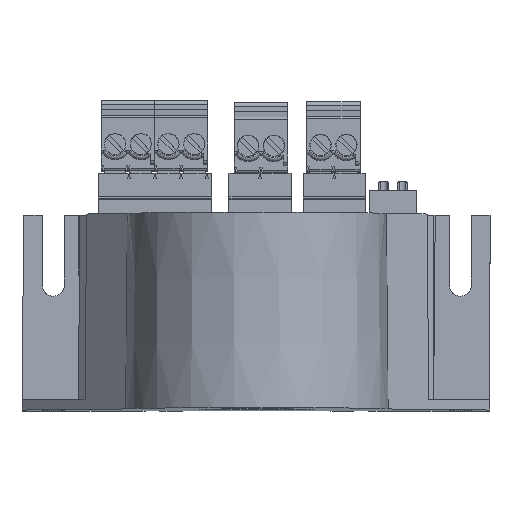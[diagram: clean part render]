
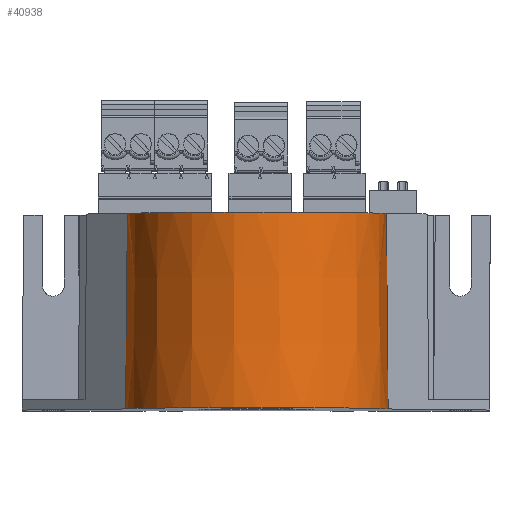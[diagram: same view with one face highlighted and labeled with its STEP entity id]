
A CAD part, top view. The second image highlights one B-rep face of the part: STEP entity #40938.
In plain terms, the highlighted conical face has half-angle 0.5 degrees and reference radius 17.5 mm.
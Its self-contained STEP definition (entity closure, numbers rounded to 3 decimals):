
#1428=CIRCLE('',#43354,17.73);
#1429=CIRCLE('',#43356,17.5);
#2633=B_SPLINE_CURVE_WITH_KNOTS('',3,(#58908,#58909,#58910,#58911),
 .UNSPECIFIED.,.F.,.F.,(4,4),(0.,0.026),.UNSPECIFIED.);
#2634=B_SPLINE_CURVE_WITH_KNOTS('',3,(#59184,#59185,#59186,#59187),
 .UNSPECIFIED.,.F.,.F.,(4,4),(0.,0.026),.UNSPECIFIED.);
#2857=CONICAL_SURFACE('',#43372,17.5,0.5);
#3011=FACE_OUTER_BOUND('',#5399,.T.);
#5399=EDGE_LOOP('',(#27643,#27644,#27645,#27646));
#17198=VERTEX_POINT('',#58905);
#17199=VERTEX_POINT('',#58907);
#17243=VERTEX_POINT('',#59042);
#17252=VERTEX_POINT('',#59063);
#21211=EDGE_CURVE('',#17199,#17198,#2633,.T.);
#21278=EDGE_CURVE('',#17243,#17198,#1428,.T.);
#21288=EDGE_CURVE('',#17252,#17199,#1429,.T.);
#21350=EDGE_CURVE('',#17252,#17243,#2634,.T.);
#27643=ORIENTED_EDGE('',*,*,#21278,.F.);
#27644=ORIENTED_EDGE('',*,*,#21350,.F.);
#27645=ORIENTED_EDGE('',*,*,#21288,.T.);
#27646=ORIENTED_EDGE('',*,*,#21211,.T.);
#40938=ADVANCED_FACE('',(#3011),#2857,.T.);
#43354=AXIS2_PLACEMENT_3D('',#59044,#47249,#47250);
#43356=AXIS2_PLACEMENT_3D('',#59064,#47262,#47263);
#43372=AXIS2_PLACEMENT_3D('',#59183,#47353,#47354);
#47249=DIRECTION('center_axis',(0.,-1.,0.009));
#47250=DIRECTION('ref_axis',(1.,0.,0.));
#47262=DIRECTION('center_axis',(0.,-1.,0.009));
#47263=DIRECTION('ref_axis',(-0.707,-0.006,-0.707));
#47353=DIRECTION('center_axis',(0.,-1.,0.009));
#47354=DIRECTION('ref_axis',(-1.,0.,0.));
#58905=CARTESIAN_POINT('',(-40.33,-1.078,21.425));
#58907=CARTESIAN_POINT('',(-40.1,25.32,21.1));
#58908=CARTESIAN_POINT('Ctrl Pts',(-40.1,25.32,21.1));
#58909=CARTESIAN_POINT('Ctrl Pts',(-40.177,16.521,21.208));
#58910=CARTESIAN_POINT('Ctrl Pts',(-40.253,7.722,21.316));
#58911=CARTESIAN_POINT('Ctrl Pts',(-40.33,-1.078,21.425));
#59042=CARTESIAN_POINT('',(-4.87,-1.078,21.425));
#59044=CARTESIAN_POINT('Origin',(-22.6,-1.079,21.329));
#59063=CARTESIAN_POINT('',(-5.1,25.32,21.1));
#59064=CARTESIAN_POINT('Origin',(-22.6,25.32,21.1));
#59183=CARTESIAN_POINT('Origin',(-22.6,25.32,21.1));
#59184=CARTESIAN_POINT('Ctrl Pts',(-5.1,25.32,21.1));
#59185=CARTESIAN_POINT('Ctrl Pts',(-5.023,16.521,21.208));
#59186=CARTESIAN_POINT('Ctrl Pts',(-4.946,7.722,21.316));
#59187=CARTESIAN_POINT('Ctrl Pts',(-4.87,-1.078,21.425));
